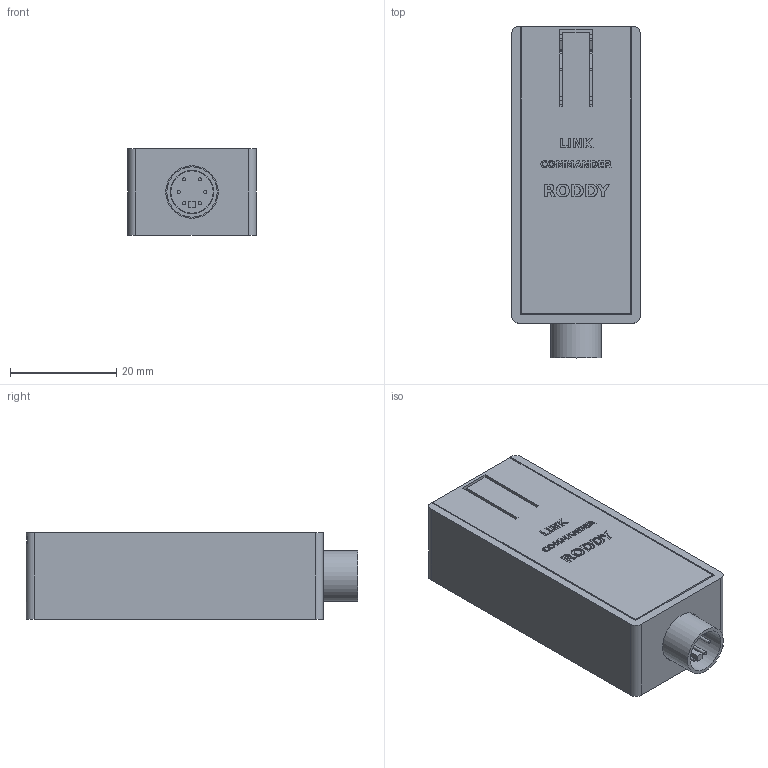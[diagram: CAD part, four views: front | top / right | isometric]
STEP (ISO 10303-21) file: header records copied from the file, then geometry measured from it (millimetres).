
FILE_DESCRIPTION(('Open CASCADE Model'),'2;1');
FILE_NAME('Open CASCADE Shape Model','2026-11-04T10:48:33',('Author'),( 'Open CASCADE'),'Open CASCADE STEP processor 7.9','Open CASCADE 7.9' ,'Unknown');
FILE_SCHEMA(('AUTOMOTIVE_DESIGN { 1 0 10303 214 1 1 1 1 }'));
Length unit declared in the file: millimetre
Products named in the file (47): dongle-direct-concept_closed; base; lid; electronics_0; electronics_1; electronics_2; electronics_3; electronics_4; electronics_5; electronics_6; electronics_7; electronics_8; electronics_9; electronics_10; electronics_11; electronics_12; electronics_13; electronics_14; electronics_15; electronics_16; electronics_17; electronics_18; electronics_19; electronics_20; electronics_21; electronics_22; electronics_23; electronics_24; electronics_25; electronics_26; electronics_27; electronics_28; electronics_29; electronics_30; electronics_31; electronics_32; electronics_33; nominal_miniDIN_shell; insulator; pin_0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
Assembly tree (46 placements, depth 2):
  dongle-direct-concept_closed
    base
    lid
    electronics_0
    electronics_1
    electronics_2
    electronics_3
    electronics_4
    electronics_5
    electronics_6
    electronics_7
    electronics_8
    electronics_9
    electronics_10
    electronics_11
    electronics_12
    electronics_13
    electronics_14
    electronics_15
    electronics_16
    electronics_17
    electronics_18
    electronics_19
    electronics_20
    electronics_21
    electronics_22
    electronics_23
    electronics_24
    electronics_25
    electronics_26
    electronics_27
    electronics_28
    electronics_29
    electronics_30
    electronics_31
    electronics_32
    electronics_33
    nominal_miniDIN_shell
    insulator
    pin_0
    pin_1
    pin_2
    pin_3
    pin_4
    pin_5
    key
    nominal_insert_body
Bounding box: 24.2 x 62.6 x 16.4 mm (x, y, z)
Volume: 12314.4 mm3; surface area: 18100.2 mm2
Topology: 46 solids, 46 shells, 1938 faces, 4916 edges, 3127 vertices
Faces by surface type: plane 1300, cylinder 339, bspline 186, extrusion 108, torus 4, revolution 1
Full cylindrical faces by diameter (mm): 0.5 x1, 0.6 x6, 0.95 x4, 1 x4, 2.3 x2, 6.3 x2, 8 x1, 8.2 x1, 9.5 x1, 9.9 x1
Entity records: 131030 total; most frequent: CARTESIAN_POINT 34488, DIRECTION 16466, VECTOR 11371, LINE 11263, ORIENTED_EDGE 9832, PCURVE 9832, DEFINITIONAL_REPRESENTATION 9832, EDGE_CURVE 4916
